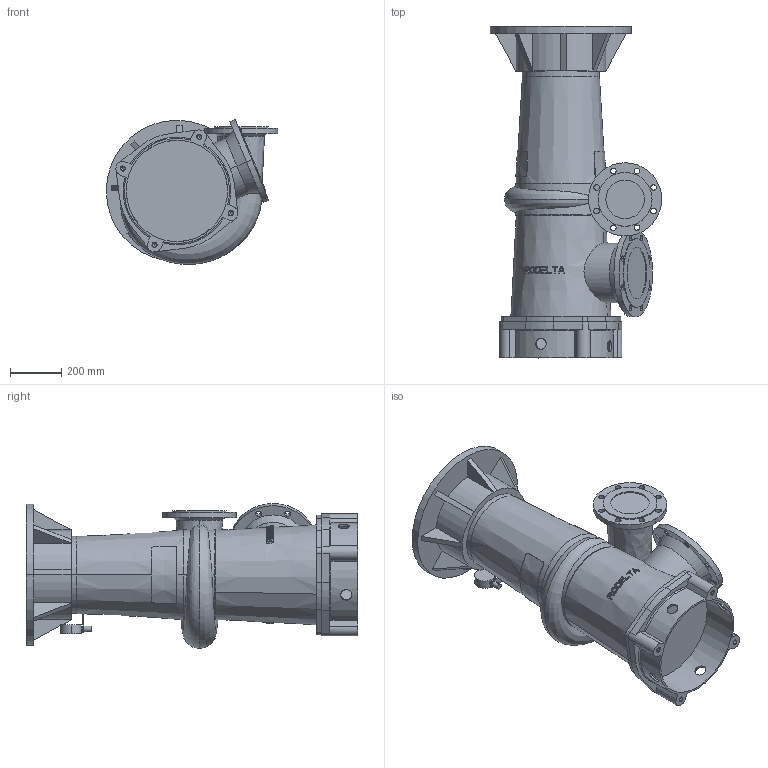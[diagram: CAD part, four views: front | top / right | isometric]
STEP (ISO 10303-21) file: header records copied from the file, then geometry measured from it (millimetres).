
FILE_DESCRIPTION((''),'2;1');
FILE_NAME('7410_VOOR_BLAD_ASM','2024-07-24T',('Lyritlocal'),(''),'PRO/ENGINEER BY PARAMETRIC TECHNOLOGY CORPORATION, 2016360','PRO/ENGINEER BY PARAMETRIC TECHNOLOGY CORPORATION, 2016360','');
FILE_SCHEMA(('CONFIG_CONTROL_DESIGN'));
Length unit declared in the file: millimetre
Products named in the file (3): 7410; 7410_VOET; 7410_VOOR_BLAD_ASM
Assembly tree (2 placements, depth 2):
  7410_VOOR_BLAD_ASM
    7410
    7410_VOET
Bounding box: 667.5 x 1292 x 564.41 mm (x, y, z)
Volume: 142858668 mm3; surface area: 3346063.5 mm2
Topology: 2 solids, 6 shells, 554 faces, 1491 edges, 983 vertices
Faces by surface type: plane 368, cylinder 138, cone 38, bspline 6, torus 4
Entity records: 19705 total; most frequent: CARTESIAN_POINT 6220, ORIENTED_EDGE 2950, DIRECTION 2529, EDGE_CURVE 1483, VERTEX_POINT 983, AXIS2_PLACEMENT_3D 961, EDGE_LOOP 646, VECTOR 607
